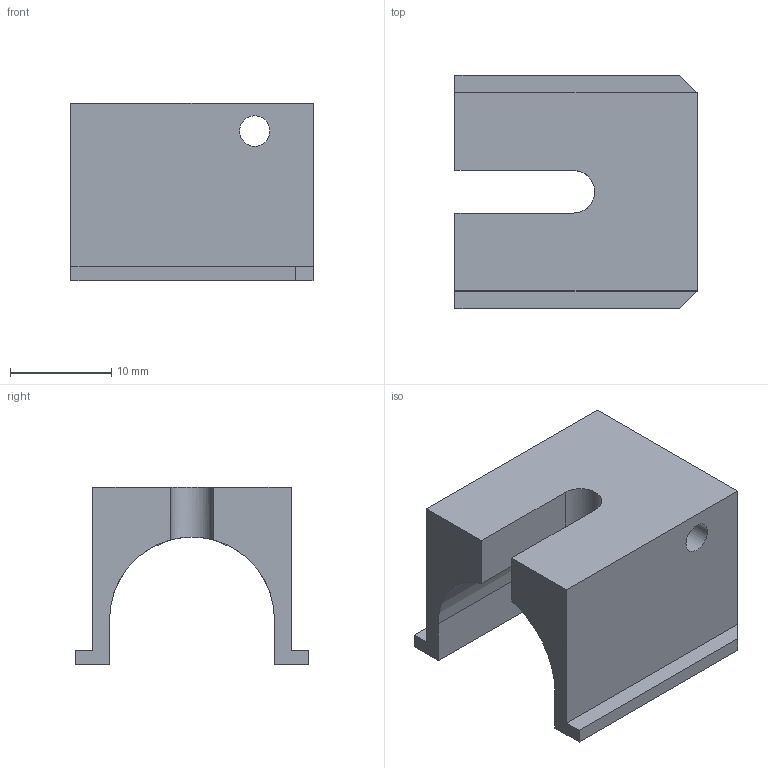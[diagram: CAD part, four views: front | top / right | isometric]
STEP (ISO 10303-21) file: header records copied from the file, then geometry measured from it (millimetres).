
FILE_DESCRIPTION(/* description */ (''),/* implementation_level */ '2;1');
FILE_NAME(/* name */ 'D:\~~GatCad\FMDA DD17.2\STEP\FMDA DD17.2 Front Rail.stp',/* time_stamp */ '2021-01-10T11:42:44-06:00',/* author */ ('johne'),/* organization */ (''),/* preprocessor_version */ 'ST-DEVELOPER v18',/* originating_system */ 'Autodesk Inventor 2020',/* authorisation */ '');
FILE_SCHEMA (('AUTOMOTIVE_DESIGN { 1 0 10303 214 3 1 1 }'));
Length unit declared in the file: inch
Products named in the file (1): FreeMans Glock 19
Bounding box: 23.86 x 23 x 17.5 mm (x, y, z)
Volume: 3657.6 mm3; surface area: 2891.3 mm2
Topology: 1 solids, 1 shells, 21 faces, 55 edges, 36 vertices
Faces by surface type: plane 18, cylinder 3
Full cylindrical faces by diameter (mm): 3 x1
Entity records: 701 total; most frequent: CARTESIAN_POINT 130, ORIENTED_EDGE 110, DIRECTION 104, EDGE_CURVE 55, LINE 48, VECTOR 48, VERTEX_POINT 36, AXIS2_PLACEMENT_3D 28
